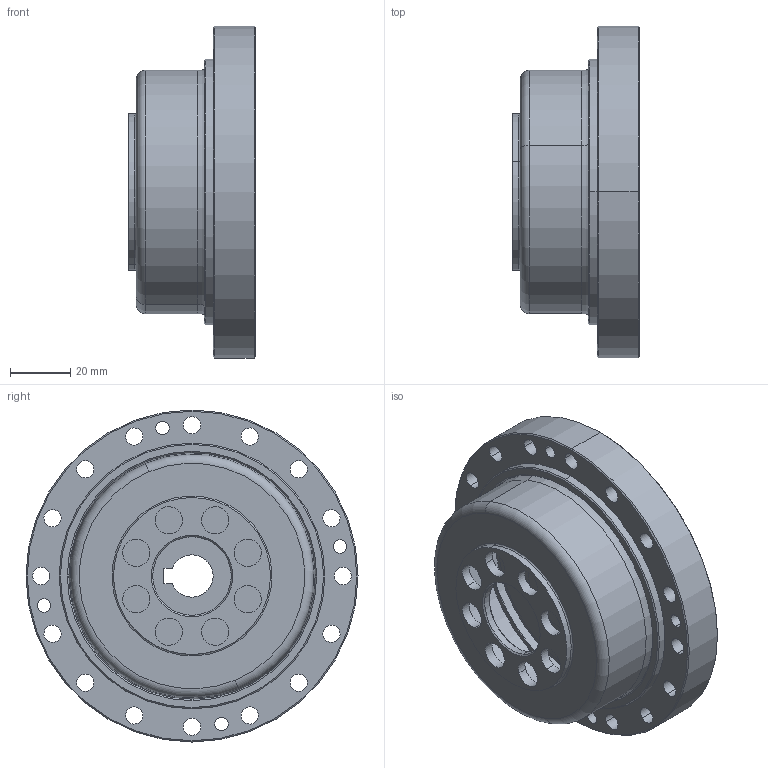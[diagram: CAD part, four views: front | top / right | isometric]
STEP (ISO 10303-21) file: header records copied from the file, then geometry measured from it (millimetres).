
FILE_DESCRIPTION (( 'STEP AP203' ), '1' );
FILE_NAME ('LCSG-32-XXX-P-I.STEP', '2016-08-27T02:51:55', ( 'Windows 蚚誧' ), ( 'Users' ), 'SwSTEP 2.0', 'SolidWorks 2013', '' );
FILE_SCHEMA (( 'CONFIG_CONTROL_DESIGN' ));
Length unit declared in the file: millimetre
Products named in the file (10): LCSG-32-XXX-P01-I; LCSG-32-XXX-P02-I; 柔性轴承RZC-32G; LCSG-32-XXX-P03-I; countersunk flat head cross recess screw_din_ISO 7046-1 - M3 x 6 - Z --- 6C; DB-32G-I; 疏楷汜ん-32G-I; RZC-32G内外圈+钢球; LCSG-32-XXX-P-I; RZC-32悵厥殤
Assembly tree (12 placements, depth 4):
  LCSG-32-XXX-P-I
    LCSG-32-XXX-P01-I
    LCSG-32-XXX-P02-I
    疏楷汜ん-32G-I
      LCSG-32-XXX-P03-I
      DB-32G-I
      柔性轴承RZC-32G
        RZC-32G内外圈+钢球
        RZC-32悵厥殤
      countersunk flat head cross recess screw_din_ISO 7046-1 - M3 x 6 - Z --- 6C  x4
Bounding box: 42 x 110 x 110 mm (x, y, z)
Volume: 122300.2 mm3; surface area: 91653.9 mm2
Topology: 34 solids, 34 shells, 545 faces, 1404 edges, 889 vertices
Faces by surface type: cylinder 222, plane 163, cone 76, sphere 46, torus 38
Entity records: 13879 total; most frequent: DIRECTION 2532, CARTESIAN_POINT 2141, ORIENTED_EDGE 2010, AXIS2_PLACEMENT_3D 1101, EDGE_CURVE 1005, CIRCLE 662, VERTEX_POINT 658, EDGE_LOOP 537
